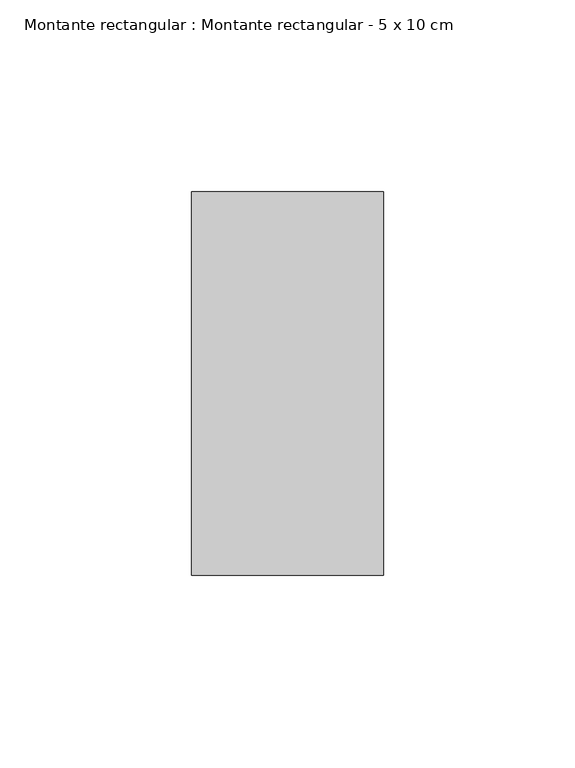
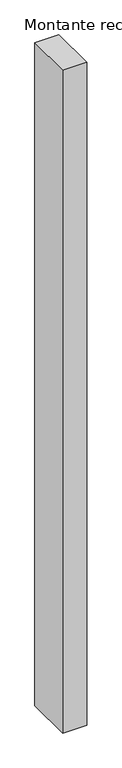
"""IFC4 building model written with IfcOpenShell, lengths in millimetres: member geometry, Montante rectangular : Montante rectangular - 5 x 10 cm."""

import ifcopenshell
import ifcopenshell.guid

model = None  # the IFC model being written
_history = None  # IfcOwnerHistory: only IFC2X3 demands one
_inside = {}  # id of a spatial element -> (the spatial element, [elements in it])
_under = {}  # id of a project, library or spatial element -> (it, [spatial elements below it])
_declared = {}  # id of a project -> (the project, [libraries it declares])
_typed = {}  # id of a type object -> (the type object, [elements of that type])
_made_of = {}  # id of a material, layer set ... -> (it, [elements and type objects made of it])


def new_model(schema):
    """Start an empty IFC model of exactly this schema.

    Asked for "IFC4X3", IfcOpenShell would pick the latest addendum, in which some entities
    have other attributes; the version numbers below select the first issue.
    IFC2X3 requires an IfcOwnerHistory on every rooted entity: one is made here for all.
    """
    global model, _history
    if schema == "IFC4X3":
        model = ifcopenshell.file(schema_version=(4, 3, 0, 0))
    else:
        model = ifcopenshell.file(schema=schema)
    _inside.clear()
    _under.clear()
    _declared.clear()
    _typed.clear()
    _made_of.clear()
    _history = None
    if model.schema == "IFC2X3":
        org = make("IfcOrganization", Name="unknown")
        user = make(
            "IfcPersonAndOrganization",
            ThePerson=make("IfcPerson", FamilyName="unknown"),
            TheOrganization=org,
        )
        app = make(
            "IfcApplication",
            ApplicationDeveloper=org,
            Version="unknown",
            ApplicationFullName="unknown",
            ApplicationIdentifier="unknown",
        )
        _history = make(
            "IfcOwnerHistory",
            OwningUser=user,
            OwningApplication=app,
            ChangeAction="ADDED",
            CreationDate=0,
        )
    return model


def make(cls, **values):
    """One entity of the class cls with the attributes given. An attribute that is None is left unset."""
    return model.create_entity(
        cls, **{name: value for name, value in values.items() if value is not None}
    )


def rooted(cls, **values):
    """An entity with a GlobalId (a new one), such as an element, a storey or a relation."""
    return make(cls, GlobalId=ifcopenshell.guid.new(), OwnerHistory=_history, **values)


def si_unit(unit_type, name, prefix=None):
    """IfcSIUnit, for example si_unit("LENGTHUNIT", "METRE", prefix="MILLI")."""
    return make("IfcSIUnit", UnitType=unit_type, Prefix=prefix, Name=name)


def assignment(units):
    """IfcUnitAssignment: the units of a project."""
    return None if units is None else make("IfcUnitAssignment", Units=units)


def point(xyz):
    """IfcCartesianPoint."""
    return None if xyz is None else make("IfcCartesianPoint", Coordinates=xyz)


def direction(xyz):
    """IfcDirection."""
    return None if xyz is None else make("IfcDirection", DirectionRatios=xyz)


def frame(location, z_axis=None, x_axis=None):
    """IfcAxis2Placement3D, a coordinate frame: its origin and axes. An axis left out is left unset."""
    return make(
        "IfcAxis2Placement3D",
        Location=point(location),
        Axis=direction(z_axis),
        RefDirection=direction(x_axis),
    )


def origin():
    """The frame at (0, 0, 0) with its axes left unset."""
    return frame((0.0, 0.0, 0.0))


def place(relative_to, where):
    """IfcLocalPlacement: puts the frame where relative to a parent placement (None: the world)."""
    return make(
        "IfcLocalPlacement", PlacementRelTo=relative_to, RelativePlacement=where
    )


def context(
    kind, dimensions, precision=None, world=None, true_north=None, identifier=None
):
    """IfcGeometricRepresentationContext, for example the 3D "Model" context."""
    return make(
        "IfcGeometricRepresentationContext",
        ContextIdentifier=identifier,
        ContextType=kind,
        CoordinateSpaceDimension=dimensions,
        Precision=precision,
        WorldCoordinateSystem=world,
        TrueNorth=true_north,
    )


def project(units=None, contexts=None):
    """IfcProject with its units and contexts."""
    return rooted(
        "IfcProject",
        Name="project",
        RepresentationContexts=contexts,
        UnitsInContext=assignment(units),
    )


def spatial(cls, under=None, at=None, **own):
    """A site, building, storey or space (cls), placed at a placement, below another one or the project."""
    s = rooted(cls, ObjectPlacement=at, **own)
    if under is not None:
        _under.setdefault(under.id(), (under, []))[1].append(s)
    return s


def polyline(points):
    """IfcPolyline through the points."""
    return make("IfcPolyline", Points=[point(p) for p in points])


def outline(outer, holes=None, kind="AREA"):
    """IfcArbitraryClosedProfileDef: a profile drawn as a closed curve; with holes, ...WithVoids."""
    if holes is None:
        return make("IfcArbitraryClosedProfileDef", ProfileType=kind, OuterCurve=outer)
    return make(
        "IfcArbitraryProfileDefWithVoids",
        ProfileType=kind,
        OuterCurve=outer,
        InnerCurves=holes,
    )


def extrude(swept, where, along, depth):
    """IfcExtrudedAreaSolid: the profile swept, set in the frame where, extruded along a direction by depth."""
    return make(
        "IfcExtrudedAreaSolid",
        SweptArea=swept,
        Position=where,
        ExtrudedDirection=direction(along),
        Depth=depth,
    )


def shape(context_of_items, identifier, shape_type, items):
    """IfcShapeRepresentation: the items that make up one representation, for example the "Body"."""
    return make(
        "IfcShapeRepresentation",
        ContextOfItems=context_of_items,
        RepresentationIdentifier=identifier,
        RepresentationType=shape_type,
        Items=items,
    )


def source(mapping_origin, context_of_items, identifier, shape_type, items):
    """IfcRepresentationMap: a shape defined once, which mapped items show again and again."""
    return make(
        "IfcRepresentationMap",
        MappingOrigin=mapping_origin,
        MappedRepresentation=shape(context_of_items, identifier, shape_type, items),
    )


def transform(
    local_origin,
    x_axis=None,
    y_axis=None,
    z_axis=None,
    scale=None,
    scale2=None,
    scale3=None,
    uniform=True,
):
    """IfcCartesianTransformationOperator3D, or its non-uniform kind. x_axis, y_axis, z_axis: its Axis1, 2, 3."""
    if uniform:
        return make(
            "IfcCartesianTransformationOperator3D",
            Axis1=direction(x_axis),
            Axis2=direction(y_axis),
            LocalOrigin=point(local_origin),
            Scale=scale,
            Axis3=direction(z_axis),
        )
    return make(
        "IfcCartesianTransformationOperator3DnonUniform",
        Axis1=direction(x_axis),
        Axis2=direction(y_axis),
        LocalOrigin=point(local_origin),
        Scale=scale,
        Axis3=direction(z_axis),
        Scale2=scale2,
        Scale3=scale3,
    )


def mapped(mapping_source, mapping_target):
    """IfcMappedItem: shows the shape of a source again, moved by a transform."""
    return make(
        "IfcMappedItem", MappingSource=mapping_source, MappingTarget=mapping_target
    )


def made_of(thing, what):
    """Note that an element or type object is made of a material, layer set ...; save() writes the relation."""
    if what is not None:
        _made_of.setdefault(what.id(), (what, []))[1].append(thing)
    return thing


def element(
    cls,
    number,
    at=None,
    inside=None,
    cuts=None,
    type_object=None,
    material=None,
    context=None,
    identifier="Body",
    shape_type=None,
    held_by="IfcProductDefinitionShape",
    body=None,
    shapes=None,
    **own,
):
    """One element of the class cls, such as IfcWall. Its Tag is "e" and its number.

    at: its placement. inside: the storey or other place that contains it. cuts: it is an
    opening in that element (IfcRelVoidsElement). A single representation is given by context,
    identifier, shape_type and body (its items); several are given by shapes. held_by: the class
    of the entity that holds the representations. save() writes the other relations.
    """
    e = rooted(cls, Tag="e%d" % number, ObjectPlacement=at, **own)
    if body is not None:
        shapes = [shape(context, identifier, shape_type, body)]
    if shapes is not None:
        e.Representation = make(held_by, Representations=shapes)
    if inside is not None:
        _inside.setdefault(inside.id(), (inside, []))[1].append(e)
    if cuts is not None:
        rooted(
            "IfcRelVoidsElement", RelatingBuildingElement=cuts, RelatedOpeningElement=e
        )
    if type_object is not None:
        _typed.setdefault(type_object.id(), (type_object, []))[1].append(e)
    return made_of(e, material)


def aggregate(whole, parts):
    """IfcRelAggregates: a whole, such as a stair, and the parts it consists of."""
    return rooted("IfcRelAggregates", RelatingObject=whole, RelatedObjects=parts)


def save(model, path):
    """Write the relations noted so far, then the file.

    IfcRelAggregates (storeys below a building ...), IfcRelContainedInSpatialStructure (elements
    in a storey), IfcRelDefinesByType, IfcRelAssociatesMaterial and IfcRelDeclares: one each for
    every whole, place, type object, material and project.
    """
    for whole, parts in _under.values():
        aggregate(whole, parts)
    for where, things in _inside.values():
        rooted(
            "IfcRelContainedInSpatialStructure",
            RelatedElements=things,
            RelatingStructure=where,
        )
    for kind, things in _typed.values():
        rooted("IfcRelDefinesByType", RelatedObjects=things, RelatingType=kind)
    for what, things in _made_of.values():
        rooted("IfcRelAssociatesMaterial", RelatedObjects=things, RelatingMaterial=what)
    for by, libraries in _declared.values():
        rooted("IfcRelDeclares", RelatingContext=by, RelatedDefinitions=libraries)
    model.write(path)


def montante_rectangular_montante_rectangular_5_x_10_cm_969eebcd(model_context):
    return source(origin(), model_context, "Body", "SweptSolid", [
        extrude(outline(polyline([(0.0, 50.0), (0.0, -50.0), (-50.0, -50.0), (-50.0, 50.0), (0.0, 50.0)])), frame((0.0, 0.0, -1457.6), z_axis=(0.0, 0.0, 1.0), x_axis=(1.0, 0.0, 0.0)), (0.0, 0.0, 1.0), 1457.6),
    ])


if __name__ == "__main__":
    model = new_model("IFC4")
    model_context = context("Model", 3, world=origin())
    ifc_project = project(units=[si_unit("LENGTHUNIT", "METRE", prefix="MILLI")], contexts=[model_context])
    site = spatial("IfcSite", under=ifc_project)
    building = spatial("IfcBuilding", under=site)
    placement = place(None, origin())
    montante_rectangular_montante_rectangular_5_x_10_cm_shape = montante_rectangular_montante_rectangular_5_x_10_cm_969eebcd(model_context)
    element("IfcMember", 1, ObjectType="Montante rectangular : Montante rectangular - 5 x 10 cm", at=placement, inside=building, context=model_context, shape_type="MappedRepresentation", body=[
        mapped(montante_rectangular_montante_rectangular_5_x_10_cm_shape, transform((0.0, 0.0, 0.0), x_axis=(1.0, 0.0, 0.0), y_axis=(0.0, 1.0, 0.0), z_axis=(0.0, 0.0, 1.0))),
    ])
    save(model, "model.ifc")
